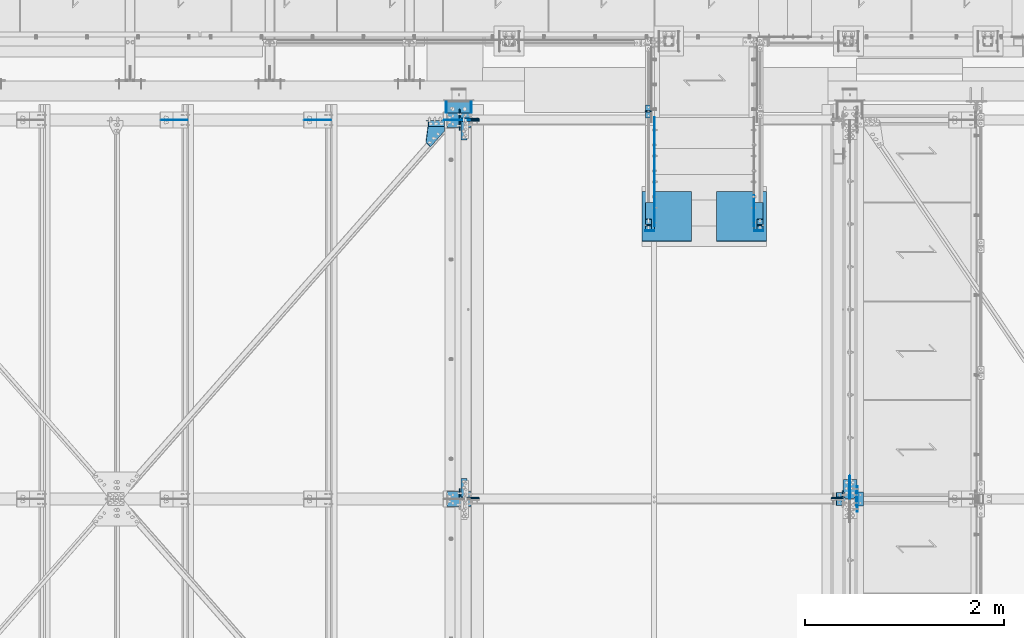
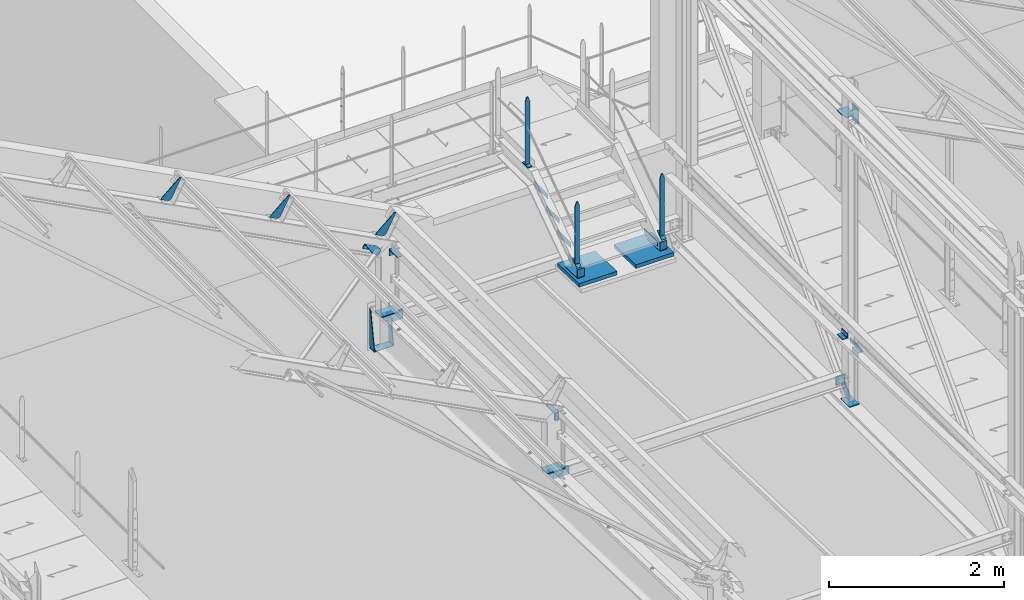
# One storey, part 91 of 362: 33 beams, 7 members, 29 elements without a shape of their own.
"""IFC2X3 building model written with IfcOpenShell, lengths in millimetres."""

from ifc_helpers import new_model, si_unit, frame, frame_2d, origin_with_axes, origin_2d_with_axis, place, context, subcontext, project, spatial, polyline, circle_curve, parameter, trimmed, segment, composite_curve, rectangle, l_section, outline, extrude, clip, halfspace, material, type_object, element, aggregate, save


model = new_model("IFC2X3")

# Units and contexts
model_context = context("Model", 3, precision=1e-05, world=origin_with_axes())
body_context = subcontext(model_context, "Body", "Model", "MODEL_VIEW")
ifc_project = project(units=[si_unit("LENGTHUNIT", "METRE", prefix="MILLI"), si_unit("AREAUNIT", "SQUARE_METRE"), si_unit("VOLUMEUNIT", "CUBIC_METRE"), si_unit("MASSUNIT", "GRAM", prefix="KILO"), si_unit("TIMEUNIT", "SECOND"), si_unit("PLANEANGLEUNIT", "RADIAN"), si_unit("SOLIDANGLEUNIT", "STERADIAN"), si_unit("THERMODYNAMICTEMPERATUREUNIT", "DEGREE_CELSIUS"), si_unit("LUMINOUSINTENSITYUNIT", "LUMEN")], contexts=[model_context])

# Site, building, storey
site_placement = place(None, origin_with_axes())
site = spatial("IfcSite", under=ifc_project, at=site_placement, Name="Undefined", CompositionType="ELEMENT")
building_placement = place(site_placement, origin_with_axes())
building = spatial("IfcBuilding", under=site, at=building_placement, Name="Undefined", CompositionType="ELEMENT")
storey_placement = place(building_placement, origin_with_axes())
storey = spatial("IfcBuildingStorey", under=building, at=storey_placement, Name="Undefined", CompositionType="ELEMENT", Elevation=0.0)

# Assembly, beams
assembly_1_placement = place(storey_placement, origin_with_axes())
assembly_1 = element("IfcElementAssembly", 1, at=assembly_1_placement, inside=storey, Name="MAIN COURANTE", AssemblyPlace="NOTDEFINED", PredefinedType="NOTDEFINED")
ifc_material_1 = material(Name="Undefined/S235-E24")
beam_type_1 = type_object("IfcBeamType", Name="PL10*60", PredefinedType="NOTDEFINED")
beam_1_placement = place(assembly_1_placement, frame((21449.9863365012, 15350.0038033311, 8915.0), z_axis=(-1.0, 0.0, 0.0), x_axis=(0.0, -1.0, 0.0)))
beam_1 = element("IfcBeam", 2, at=beam_1_placement, type_object=beam_type_1, material=ifc_material_1, Name="PLATINE", ObjectType="PL10*60", context=body_context, shape_type="SweptSolid", body=[
    extrude(rectangle(XDim=10.0, YDim=60.0, at=origin_2d_with_axis()), frame((130.0, 0.0, 0.0), z_axis=(-1.0, 0.0, 0.0), x_axis=(0.0, -1.0, 0.0)), (0.0, 0.0, 1.0), 130.0),
])
beam_2_placement = place(assembly_1_placement, frame((21449.9862112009, 15285.0038033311, 9857.59999847), z_axis=(-0.99999999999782, -2.08799999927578e-06, 0.0), x_axis=(0.0, 0.0, -1.0)))
beam_2 = element("IfcBeam", 3, at=beam_2_placement, type_object=beam_type_1, material=ifc_material_1, Name="MONTANT", ObjectType="PL10*60", context=body_context, shape_type="Clipping", body=[
    clip(clip(extrude(rectangle(XDim=10.0, YDim=60.0, at=origin_2d_with_axis()), frame((937.599998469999, 0.0, 0.0), z_axis=(-1.0, 0.0, 0.0), x_axis=(0.0, -1.0, 0.0)), (0.0, 0.0, 1.0), 937.6), halfspace(frame((-119.999937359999, -4.99999999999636, -30.0), z_axis=(-0.316227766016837, -1.98085072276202e-06, 0.948683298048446), x_axis=(-6.26399999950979e-06, 0.999999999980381, -3.63797880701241e-15)), False)), halfspace(frame((60.0, -5.0, -30.0), z_axis=(-0.316227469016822, 1.98084886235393e-06, -0.948683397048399), x_axis=(6.26399999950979e-06, 0.999999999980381, -3.63797880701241e-15)), False)),
])
beam_3_placement = place(assembly_1_placement, frame((21449.9862112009, 14144.9998536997, 9085.35366746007), z_axis=(-0.99999999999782, -2.08799999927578e-06, 0.0), x_axis=(0.0, 0.0, -1.0)))
beam_3 = element("IfcBeam", 4, at=beam_3_placement, type_object=beam_type_1, material=ifc_material_1, Name="MONTANT", ObjectType="PL10*60", context=body_context, shape_type="Clipping", body=[
    clip(clip(clip(clip(extrude(rectangle(XDim=10.0, YDim=60.0, at=origin_2d_with_axis()), frame((863.260305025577, 0.0, 0.0), z_axis=(-1.0, 0.0, 0.0), x_axis=(0.0, -1.0, 0.0)), (0.0, 0.0, 1.0), 870.25), halfspace(frame((-119.999937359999, -4.99999999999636, -30.0), z_axis=(-0.316227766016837, -1.98085072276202e-06, 0.948683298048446), x_axis=(-6.26399999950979e-06, 0.999999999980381, -3.63797880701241e-15)), False)), halfspace(frame((60.0, -5.0, -30.0), z_axis=(-0.316227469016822, 1.98084886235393e-06, -0.948683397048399), x_axis=(6.26399999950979e-06, 0.999999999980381, -3.63797880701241e-15)), False)), halfspace(frame((851.815615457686, -6.43113634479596, -0.000138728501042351), z_axis=(0.822192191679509, -0.569209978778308, -6.66011673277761e-07), x_axis=(0.569209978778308, 0.822192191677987, 1.71673729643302e-06)), False)), halfspace(frame((-7.87605918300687, -11.3765299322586, -0.000149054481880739), z_axis=(0.822192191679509, -0.569209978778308, -6.66011673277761e-07), x_axis=(0.569209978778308, 0.822192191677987, 1.71673729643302e-06)), True)),
])

# Assembly, beam
assembly_2_placement = place(storey_placement, origin_with_axes())
assembly_2 = element("IfcElementAssembly", 5, at=assembly_2_placement, inside=storey, Name="MAIN COURANTE", AssemblyPlace="NOTDEFINED", PredefinedType="NOTDEFINED")
beam_4_placement = place(assembly_2_placement, frame((22569.9937887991, 14144.9998536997, 9085.35366746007), z_axis=(0.999999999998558, -1.69800000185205e-06, 0.0), x_axis=(0.0, 0.0, -1.0)))
beam_4 = element("IfcBeam", 6, at=beam_4_placement, type_object=beam_type_1, material=ifc_material_1, Name="MONTANT", ObjectType="PL10*60", context=body_context, shape_type="Clipping", body=[
    clip(clip(clip(clip(extrude(rectangle(XDim=10.0, YDim=60.0, at=origin_2d_with_axis()), frame((863.260305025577, 0.0, 0.0), z_axis=(-1.0, 0.0, 0.0), x_axis=(0.0, -1.0, 0.0)), (0.0, 0.0, 1.0), 870.25), halfspace(frame((-119.999937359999, 4.99999999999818, -30.0), z_axis=(-0.316227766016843, 1.98085072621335e-06, 0.948683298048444), x_axis=(0.948683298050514, 0.0, 0.316227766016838)), False)), halfspace(frame((60.0, 5.0, -30.0), z_axis=(-0.316227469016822, -1.98084886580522e-06, -0.948683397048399), x_axis=(-0.948683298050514, 0.0, 0.316227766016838)), False)), halfspace(frame((851.815615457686, 6.43113634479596, -0.000138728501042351), z_axis=(0.822192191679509, 0.569209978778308, -6.6601167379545e-07), x_axis=(0.0, -2.08799999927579e-06, -0.99999999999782)), False)), halfspace(frame((-7.87605918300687, 11.3765299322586, -0.000149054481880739), z_axis=(0.822192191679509, 0.569209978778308, -6.6601167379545e-07), x_axis=(0.0, -2.08799999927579e-06, -0.99999999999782)), True)),
])

assembly_3_placement = place(storey_placement, origin_with_axes())
assembly_3 = element("IfcElementAssembly", 7, at=assembly_3_placement, inside=storey, Name="MONTANT", AssemblyPlace="NOTDEFINED", PredefinedType="NOTDEFINED")
beam_type_2 = type_object("IfcBeamType", Name="TOLE8*138", PredefinedType="NOTDEFINED")
beam_5_placement = place(assembly_3_placement, frame((23470.0, 11500.0, 7260.0), z_axis=(-1.0, 0.0, 0.0), x_axis=(0.0, -1.0, 0.0)))
beam_5 = element("IfcBeam", 8, at=beam_5_placement, type_object=beam_type_2, material=ifc_material_1, Name="GOUSSET", ObjectType="TOLE8*138", context=body_context, shape_type="SweptSolid", body=[
    extrude(outline(polyline([(0.0, 0.0), (77.25, 0.0), (97.25, 20.0), (97.25, 100.0), (-78.0536499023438, 234.738433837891), (-135.957046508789, 179.537002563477), (0.0, 0.0)])), frame((0.0, 0.0, -4.0), z_axis=(0.0, 0.0, 1.0), x_axis=(1.0, 0.0, 0.0)), (0.0, 0.0, 1.0), 8.0),
])

# Member
member_type_1 = type_object("IfcMemberType", Name="PL10*60", PredefinedType="NOTDEFINED")
member_1_placement = place(assembly_1_placement, frame((21449.9863365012, 14205.3993570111, 8264.81946439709), z_axis=(-1.0, 0.0, 0.0), x_axis=(0.0, -0.822192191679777, -0.569209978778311)))
member_1 = element("IfcMember", 9, at=member_1_placement, type_object=member_type_1, material=ifc_material_1, Name="PLATINE", ObjectType="PL10*60", context=body_context, shape_type="SweptSolid", body=[
    extrude(rectangle(XDim=10.0, YDim=60.0, at=origin_2d_with_axis()), frame((130.0, 0.0, 0.0), z_axis=(-1.0, 0.0, 0.0), x_axis=(0.0, -1.0, 0.0)), (0.0, 0.0, 1.0), 130.0),
])

aggregate(assembly_1, [member_1, beam_1, beam_2, beam_3])

member_2_placement = place(assembly_2_placement, frame((22569.9936634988, 14205.3993570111, 8264.81946439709), z_axis=(1.0, 0.0, 0.0), x_axis=(0.0, -0.822192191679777, -0.569209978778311)))
member_2 = element("IfcMember", 10, at=member_2_placement, type_object=member_type_1, material=ifc_material_1, Name="PLATINE", ObjectType="PL10*60", context=body_context, shape_type="SweptSolid", body=[
    extrude(rectangle(XDim=10.0, YDim=60.0, at=origin_2d_with_axis()), frame((130.0, 0.0, 0.0), z_axis=(-1.0, 0.0, 0.0), x_axis=(0.0, -1.0, 0.0)), (0.0, 0.0, 1.0), 130.0),
])

aggregate(assembly_2, [member_2, beam_4])

# Assembly, beam
assembly_4_placement = place(storey_placement, origin_with_axes())
assembly_4 = element("IfcElementAssembly", 11, at=assembly_4_placement, inside=storey, Name="MARCHE", AssemblyPlace="NOTDEFINED", PredefinedType="NOTDEFINED")
beam_type_3 = type_object("IfcBeamType", Name="PL3*70", PredefinedType="NOTDEFINED")
beam_6_placement = place(assembly_4_placement, frame((21511.4947340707, 15224.9997910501, 8700.0), z_axis=(-1.0, 0.0, 0.0), x_axis=(0.0, 0.0, -1.0)))
beam_6 = element("IfcBeam", 12, at=beam_6_placement, type_object=beam_type_3, material=ifc_material_1, Name="PLAT MARCHE", ObjectType="PL3*70", context=body_context, shape_type="SweptSolid", body=[
    extrude(outline(polyline([(0.0, 0.0), (50.0, 0.0), (70.0, 30.0), (70.0, 310.0), (0.0, 310.0), (0.0, 0.0)])), frame((0.0, 0.0, -1.5), z_axis=(0.0, 0.0, 1.0), x_axis=(1.0, 0.0, 0.0)), (0.0, 0.0, 1.0), 3.0),
])
aggregate(assembly_4, [beam_6])

assembly_5_placement = place(storey_placement, origin_with_axes())
assembly_5 = element("IfcElementAssembly", 13, at=assembly_5_placement, inside=storey, Name="MARCHE", AssemblyPlace="NOTDEFINED", PredefinedType="NOTDEFINED")
beam_7_placement = place(assembly_5_placement, frame((21511.4947340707, 14964.9997910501, 8520.00000004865), z_axis=(-1.0, 0.0, 0.0), x_axis=(0.0, 0.0, -1.0)))
beam_7 = element("IfcBeam", 14, at=beam_7_placement, type_object=beam_type_3, material=ifc_material_1, Name="PLAT MARCHE", ObjectType="PL3*70", context=body_context, shape_type="SweptSolid", body=[
    extrude(outline(polyline([(0.0, 0.0), (50.0, 0.0), (70.0, 30.0), (70.0, 310.0), (0.0, 310.0), (0.0, 0.0)])), frame((0.0, 0.0, -1.5), z_axis=(0.0, 0.0, 1.0), x_axis=(1.0, 0.0, 0.0)), (0.0, 0.0, 1.0), 3.0),
])
aggregate(assembly_5, [beam_7])

assembly_6_placement = place(storey_placement, origin_with_axes())
assembly_6 = element("IfcElementAssembly", 15, at=assembly_6_placement, inside=storey, Name="MARCHE", AssemblyPlace="NOTDEFINED", PredefinedType="NOTDEFINED")
beam_8_placement = place(assembly_6_placement, frame((21511.4947340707, 14704.9997910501, 8340.00000007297), z_axis=(-1.0, 0.0, 0.0), x_axis=(0.0, 0.0, -1.0)))
beam_8 = element("IfcBeam", 16, at=beam_8_placement, type_object=beam_type_3, material=ifc_material_1, Name="PLAT MARCHE", ObjectType="PL3*70", context=body_context, shape_type="SweptSolid", body=[
    extrude(outline(polyline([(0.0, 0.0), (50.0, 0.0), (70.0, 30.0), (70.0, 310.0), (0.0, 310.0), (0.0, 0.0)])), frame((0.0, 0.0, -1.5), z_axis=(0.0, 0.0, 1.0), x_axis=(1.0, 0.0, 0.0)), (0.0, 0.0, 1.0), 3.0),
])
aggregate(assembly_6, [beam_8])

# Assembly, beams
assembly_7_placement = place(storey_placement, origin_with_axes())
assembly_7 = element("IfcElementAssembly", 17, at=assembly_7_placement, inside=storey, Name="MARCHE", AssemblyPlace="NOTDEFINED", PredefinedType="NOTDEFINED")
beam_9_placement = place(assembly_7_placement, frame((21511.4947340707, 14444.9997910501, 8160.0000000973), z_axis=(-1.0, 0.0, 0.0), x_axis=(0.0, 0.0, -1.0)))
beam_9 = element("IfcBeam", 18, at=beam_9_placement, type_object=beam_type_3, material=ifc_material_1, Name="PLAT MARCHE", ObjectType="PL3*70", context=body_context, shape_type="SweptSolid", body=[
    extrude(outline(polyline([(0.0, 0.0), (50.0, 0.0), (70.0, 30.0), (70.0, 310.0), (0.0, 310.0), (0.0, 0.0)])), frame((0.0, 0.0, -1.5), z_axis=(0.0, 0.0, 1.0), x_axis=(1.0, 0.0, 0.0)), (0.0, 0.0, 1.0), 3.0),
])
beam_10_placement = place(assembly_7_placement, frame((22508.4947340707, 14444.9997910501, 8160.0000000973), z_axis=(-1.0, 0.0, 0.0), x_axis=(0.0, 0.0, -1.0)))
beam_10 = element("IfcBeam", 19, at=beam_10_placement, type_object=beam_type_3, material=ifc_material_1, Name="PLAT MARCHE", ObjectType="PL3*70", context=body_context, shape_type="SweptSolid", body=[
    extrude(outline(polyline([(0.0, 0.0), (50.0, 0.0), (70.0, 30.0), (70.0, 310.0), (0.0, 310.0), (0.0, 0.0)])), frame((0.0, 0.0, -1.5), z_axis=(0.0, 0.0, 1.0), x_axis=(1.0, 0.0, 0.0)), (0.0, 0.0, 1.0), 3.0),
])
aggregate(assembly_7, [beam_9, beam_10])

assembly_8_placement = place(storey_placement, origin_with_axes())
assembly_8 = element("IfcElementAssembly", 20, at=assembly_8_placement, inside=storey, AssemblyPlace="NOTDEFINED", PredefinedType="NOTDEFINED")
beam_type_4 = type_object("IfcBeamType", Name="PL8*90", PredefinedType="NOTDEFINED")
beam_11_placement = place(assembly_8_placement, frame((22554.9938754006, 14370.1040990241, 8052.62545207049), z_axis=(1.0, 0.0, 0.0), x_axis=(0.0, -0.999506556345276, 0.031410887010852)))
beam_11 = element("IfcBeam", 21, at=beam_11_placement, type_object=beam_type_4, material=ifc_material_1, Name="PLAT LIMON", ObjectType="PL8*90", context=body_context, shape_type="SweptSolid", body=[
    extrude(rectangle(XDim=8.0, YDim=90.0, at=origin_2d_with_axis()), frame((285.370765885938, 0.0, 0.0), z_axis=(-1.0, 0.0, 0.0), x_axis=(0.0, -1.0, 0.0)), (0.0, 0.0, 1.0), 285.37),
])
beam_12_placement = place(assembly_8_placement, frame((22554.9938754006, 14088.9997910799, 8180.92307703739), z_axis=(1.0, 0.0, 0.0), x_axis=(0.0, 0.0, -1.0)))
beam_12 = element("IfcBeam", 22, at=beam_12_placement, type_object=beam_type_4, material=ifc_material_1, Name="PLAT LIMON", ObjectType="PL8*90", context=body_context, shape_type="SweptSolid", body=[
    extrude(rectangle(XDim=8.0, YDim=90.0, at=origin_2d_with_axis()), frame((114.997260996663, 0.0, 0.0), z_axis=(-1.0, 0.0, 0.0), x_axis=(0.0, -1.0, 0.0)), (0.0, 0.0, 1.0), 115.0),
])
aggregate(assembly_8, [beam_11, beam_12])

assembly_9_placement = place(storey_placement, origin_with_axes())
assembly_9 = element("IfcElementAssembly", 23, at=assembly_9_placement, inside=storey, AssemblyPlace="NOTDEFINED", PredefinedType="NOTDEFINED")
beam_13_placement = place(assembly_9_placement, frame((21465.0061245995, 14370.1040990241, 8052.62545207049), z_axis=(-1.0, 0.0, 0.0), x_axis=(0.0, -0.999506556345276, 0.031410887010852)))
beam_13 = element("IfcBeam", 24, at=beam_13_placement, type_object=beam_type_4, material=ifc_material_1, Name="PLAT LIMON", ObjectType="PL8*90", context=body_context, shape_type="SweptSolid", body=[
    extrude(rectangle(XDim=8.0, YDim=90.0, at=origin_2d_with_axis()), frame((285.370765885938, 0.0, 0.0), z_axis=(-1.0, 0.0, 0.0), x_axis=(0.0, -1.0, 0.0)), (0.0, 0.0, 1.0), 285.37),
])
beam_14_placement = place(assembly_9_placement, frame((21465.0061245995, 14088.9997910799, 8180.92307703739), z_axis=(-1.0, 0.0, 0.0), x_axis=(0.0, 0.0, -1.0)))
beam_14 = element("IfcBeam", 25, at=beam_14_placement, type_object=beam_type_4, material=ifc_material_1, Name="PLAT LIMON", ObjectType="PL8*90", context=body_context, shape_type="SweptSolid", body=[
    extrude(rectangle(XDim=8.0, YDim=90.0, at=origin_2d_with_axis()), frame((114.997260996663, 0.0, 0.0), z_axis=(-1.0, 0.0, 0.0), x_axis=(0.0, -1.0, 0.0)), (0.0, 0.0, 1.0), 115.0),
])
aggregate(assembly_9, [beam_13, beam_14])

# Assembly, beam
assembly_10_placement = place(storey_placement, origin_with_axes())
assembly_10 = element("IfcElementAssembly", 26, at=assembly_10_placement, inside=storey, Name="DALLE SUR PLOT", AssemblyPlace="NOTDEFINED", PredefinedType="REINFORCEMENT_UNIT")
ifc_material_2 = material(Name="CONCRETE/BETON")
beam_type_5 = type_object("IfcBeamType", Name="PL50*500", PredefinedType="NOTDEFINED")
beam_15_placement = place(assembly_10_placement, frame((21634.9947340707, 14483.7658543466, 8020.03915601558), z_axis=(-1.0, 0.0, 0.0), x_axis=(0.0, -0.999506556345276, 0.031410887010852)))
beam_15 = element("IfcBeam", 27, at=beam_15_placement, type_object=beam_type_5, material=ifc_material_2, Name="DALLE SUR PLOT", ObjectType="PL50*500", context=body_context, shape_type="SweptSolid", body=[
    extrude(rectangle(XDim=50.0, YDim=500.0, at=origin_2d_with_axis()), frame((500.000000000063, 0.0, 0.0), z_axis=(-1.0, 0.0, 0.0), x_axis=(0.0, -1.0, 0.0)), (0.0, 0.0, 1.0), 500.0),
])
aggregate(assembly_10, [beam_15])

assembly_11_placement = place(storey_placement, origin_with_axes())
assembly_11 = element("IfcElementAssembly", 28, at=assembly_11_placement, inside=storey, Name="DALLE SUR PLOT", AssemblyPlace="NOTDEFINED", PredefinedType="REINFORCEMENT_UNIT")
beam_16_placement = place(assembly_11_placement, frame((22384.9947340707, 14483.7658543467, 8020.03915601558), z_axis=(-1.0, 0.0, 0.0), x_axis=(0.0, -0.999506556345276, 0.031410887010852)))
beam_16 = element("IfcBeam", 29, at=beam_16_placement, type_object=beam_type_5, material=ifc_material_2, Name="DALLE SUR PLOT", ObjectType="PL50*500", context=body_context, shape_type="SweptSolid", body=[
    extrude(rectangle(XDim=50.0, YDim=500.0, at=origin_2d_with_axis()), frame((500.000000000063, 0.0, 0.0), z_axis=(-1.0, 0.0, 0.0), x_axis=(0.0, -1.0, 0.0)), (0.0, 0.0, 1.0), 500.0),
])
aggregate(assembly_11, [beam_16])

assembly_12_placement = place(storey_placement, origin_with_axes())
assembly_12 = element("IfcElementAssembly", 30, at=assembly_12_placement, inside=storey, AssemblyPlace="NOTDEFINED", PredefinedType="NOTDEFINED")
beam_type_6 = type_object("IfcBeamType", Name="L70*7", PredefinedType="NOTDEFINED")
beam_17_placement = place(assembly_12_placement, frame((23571.49994422, 11330.0, 7915.0), z_axis=(1.0, 0.0, 0.0), x_axis=(0.0, 1.0, 0.0)))
beam_17 = element("IfcBeam", 31, at=beam_17_placement, type_object=beam_type_6, material=ifc_material_1, Name="ATTACHE", ObjectType="L70*7", context=body_context, shape_type="SweptSolid", body=[
    extrude(l_section(Depth=70.0, Width=70.0, Thickness=7.0, FilletRadius=9.0, EdgeRadius=4.5, at=origin_2d_with_axis()), frame((140.0, 0.0, 0.0), z_axis=(-1.0, 0.0, 0.0), x_axis=(0.0, -1.0, 0.0)), (0.0, 0.0, 1.0), 140.0),
])
aggregate(assembly_12, [beam_17])

assembly_13_placement = place(storey_placement, origin_with_axes())
assembly_13 = element("IfcElementAssembly", 32, at=assembly_13_placement, inside=storey, AssemblyPlace="NOTDEFINED", PredefinedType="NOTDEFINED")
beam_18_placement = place(assembly_13_placement, frame((23368.5001163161, 11464.8129140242, 8229.98135168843), z_axis=(0.0, 0.0314135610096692, 0.999506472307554), x_axis=(0.0, -0.999506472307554, 0.031413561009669)))
beam_18 = element("IfcBeam", 33, at=beam_18_placement, type_object=beam_type_6, material=ifc_material_1, Name="ATTACHE", ObjectType="L70*7", context=body_context, shape_type="SweptSolid", body=[
    extrude(l_section(Depth=70.0, Width=70.0, Thickness=7.0, FilletRadius=9.0, EdgeRadius=4.5, at=origin_2d_with_axis()), frame((130.004127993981, 0.0, 9.02084851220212e-16), z_axis=(-1.0, 0.0, 0.0), x_axis=(0.0, -1.0, 0.0)), (0.0, 0.0, 1.0), 130.0),
])
aggregate(assembly_13, [beam_18])

assembly_14_placement = place(storey_placement, origin_with_axes())
assembly_14 = element("IfcElementAssembly", 34, at=assembly_14_placement, inside=storey, AssemblyPlace="NOTDEFINED", PredefinedType="NOTDEFINED")
beam_type_7 = type_object("IfcBeamType", Name="TOLE6*196", PredefinedType="NOTDEFINED")
beam_19_placement = place(assembly_14_placement, frame((19406.8363854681, 15089.9776468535, 8548.85321210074), z_axis=(0.463528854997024, 6.99999093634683e-09, 0.886081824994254), x_axis=(0.0, 1.0, 0.0)))
beam_19 = element("IfcBeam", 35, at=beam_19_placement, type_object=beam_type_7, material=ifc_material_1, Name="GOUSSET", ObjectType="TOLE6*196", context=body_context, shape_type="SweptSolid", body=[
    extrude(outline(polyline([(0.0, 0.0), (96.5226516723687, -1.65528035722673e-10), (96.5226516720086, 180.000106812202), (-112.688667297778, 210.686050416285), (-162.033142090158, 161.036056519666), (0.0, 0.0)])), frame((0.0, 0.0, -3.0), z_axis=(0.0, 0.0, 1.0), x_axis=(1.0, 0.0, 0.0)), (0.0, 0.0, 1.0), 6.0),
])
aggregate(assembly_14, [beam_19])

# Assembly, member
assembly_15_placement = place(storey_placement, origin_with_axes())
assembly_15 = element("IfcElementAssembly", 36, at=assembly_15_placement, inside=storey, AssemblyPlace="NOTDEFINED", PredefinedType="NOTDEFINED")
member_type_2 = type_object("IfcMemberType", Name="L60*6", PredefinedType="NOTDEFINED")
member_3_placement = place(assembly_15_placement, frame((19232.0450946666, 15166.5002956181, 8603.04770381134), z_axis=(0.0, -1.0, 0.0), x_axis=(0.886081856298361, 3.500000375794e-08, -0.463528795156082)))
member_3 = element("IfcMember", 37, at=member_3_placement, type_object=member_type_2, material=ifc_material_1, Name="ATTACHE", ObjectType="L60*6", context=body_context, shape_type="SweptSolid", body=[
    extrude(l_section(Depth=60.0, Width=60.0, Thickness=6.0, FilletRadius=8.0, EdgeRadius=4.0, at=origin_2d_with_axis()), frame((180.0, 0.0, 0.0), z_axis=(-1.0, 0.0, 0.0), x_axis=(0.0, -1.0, 0.0)), (0.0, 0.0, 1.0), 180.0),
])
aggregate(assembly_15, [member_3])

# Assembly, beam
assembly_16_placement = place(storey_placement, origin_with_axes())
assembly_16 = element("IfcElementAssembly", 38, at=assembly_16_placement, inside=storey, Name="PANNE SHED", AssemblyPlace="NOTDEFINED", PredefinedType="NOTDEFINED")
beam_type_8 = type_object("IfcBeamType", Name="TOLE8*140", PredefinedType="NOTDEFINED")
beam_20_placement = place(assembly_16_placement, frame((19667.0878027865, 15200.0, 8923.94974997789), z_axis=(0.0, -1.0, 0.0), x_axis=(-0.886081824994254, 0.0, 0.463528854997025)))
beam_20 = element("IfcBeam", 39, at=beam_20_placement, type_object=beam_type_8, material=ifc_material_1, Name="RAIDISSEUR", ObjectType="TOLE8*140", context=body_context, shape_type="SweptSolid", body=[
    extrude(outline(polyline([(0.0, 0.0), (19.9999999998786, -3.63797880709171e-12), (140.000030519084, 299.999999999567), (140.000030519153, 319.999999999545), (30.0000147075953, 319.999999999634), (0.0, 290.0), (0.0, 0.0)])), frame((0.0, 0.0, -4.0), z_axis=(0.0, 0.0, 1.0), x_axis=(1.0, 0.0, 0.0)), (0.0, 0.0, 1.0), 8.0),
])
aggregate(assembly_16, [beam_20])

assembly_17_placement = place(storey_placement, origin_with_axes())
assembly_17 = element("IfcElementAssembly", 40, at=assembly_17_placement, inside=storey, Name="PANNE SHED", AssemblyPlace="NOTDEFINED", PredefinedType="NOTDEFINED")
beam_21_placement = place(assembly_17_placement, frame((18269.6614730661, 15200.0, 9654.97325100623), z_axis=(0.0, -1.0, 0.0), x_axis=(-0.886081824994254, 0.0, 0.463528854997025)))
beam_21 = element("IfcBeam", 41, at=beam_21_placement, type_object=beam_type_8, material=ifc_material_1, Name="RAIDISSEUR", ObjectType="TOLE8*140", context=body_context, shape_type="SweptSolid", body=[
    extrude(outline(polyline([(0.0, 0.0), (19.9999999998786, -3.63797880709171e-12), (140.000030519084, 299.999999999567), (140.000030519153, 319.999999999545), (30.0000147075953, 319.999999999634), (0.0, 290.0), (0.0, 0.0)])), frame((0.0, 0.0, -4.0), z_axis=(0.0, 0.0, 1.0), x_axis=(1.0, 0.0, 0.0)), (0.0, 0.0, 1.0), 8.0),
])
aggregate(assembly_17, [beam_21])

assembly_18_placement = place(storey_placement, origin_with_axes())
assembly_18 = element("IfcElementAssembly", 42, at=assembly_18_placement, inside=storey, Name="PANNE SHED", AssemblyPlace="NOTDEFINED", PredefinedType="NOTDEFINED")
beam_22_placement = place(assembly_18_placement, frame((16832.361407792, 15200.0, 10406.855553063), z_axis=(0.0, -1.0, 0.0), x_axis=(-0.886081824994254, 0.0, 0.463528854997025)))
beam_22 = element("IfcBeam", 43, at=beam_22_placement, type_object=beam_type_8, material=ifc_material_1, Name="RAIDISSEUR", ObjectType="TOLE8*140", context=body_context, shape_type="SweptSolid", body=[
    extrude(outline(polyline([(0.0, 0.0), (19.9999999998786, -3.63797880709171e-12), (140.000030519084, 299.999999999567), (140.000030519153, 319.999999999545), (30.0000147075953, 319.999999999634), (0.0, 290.0), (0.0, 0.0)])), frame((0.0, 0.0, -4.0), z_axis=(0.0, 0.0, 1.0), x_axis=(1.0, 0.0, 0.0)), (0.0, 0.0, 1.0), 8.0),
])
aggregate(assembly_18, [beam_22])

# Assembly, member
assembly_19_placement = place(storey_placement, origin_with_axes())
assembly_19 = element("IfcElementAssembly", 44, at=assembly_19_placement, inside=storey, AssemblyPlace="NOTDEFINED", PredefinedType="NOTDEFINED")
member_type_3 = type_object("IfcMemberType", Name="L200*100*10", PredefinedType="NOTDEFINED")
member_4_placement = place(assembly_19_placement, frame((19656.0000000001, 15251.0955997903, 7420.64109957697), z_axis=(1.0, 0.0, 0.0), x_axis=(7.58071938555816e-11, 0.0314107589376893, 0.999506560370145)))
member_4 = element("IfcMember", 45, at=member_4_placement, type_object=member_type_3, material=ifc_material_1, Name="ATTACHE", ObjectType="L200*100*10", context=body_context, shape_type="SweptSolid", body=[
    extrude(l_section(Depth=200.0, Width=100.0, Thickness=10.0, FilletRadius=15.0, EdgeRadius=7.5, at=origin_2d_with_axis()), frame((120.0, 0.0, 0.0), z_axis=(-1.0, 0.0, 0.0), x_axis=(0.0, -1.0, 0.0)), (0.0, 0.0, 1.0), 120.0),
])
aggregate(assembly_19, [member_4])

assembly_20_placement = place(storey_placement, origin_with_axes())
assembly_20 = element("IfcElementAssembly", 46, at=assembly_20_placement, inside=storey, AssemblyPlace="NOTDEFINED", PredefinedType="NOTDEFINED")
member_5_placement = place(assembly_20_placement, frame((19656.0000000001, 15148.9163902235, 7543.91150128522), z_axis=(1.0, 0.0, 0.0), x_axis=(-1.05403257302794e-09, -0.0314112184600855, -0.999506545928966)))
member_5 = element("IfcMember", 47, at=member_5_placement, type_object=member_type_3, material=ifc_material_1, Name="ATTACHE", ObjectType="L200*100*10", context=body_context, shape_type="SweptSolid", body=[
    extrude(l_section(Depth=200.0, Width=100.0, Thickness=10.0, FilletRadius=15.0, EdgeRadius=7.5, at=origin_2d_with_axis()), frame((120.0, 0.0, 0.0), z_axis=(-1.0, 0.0, 0.0), x_axis=(0.0, -1.0, 0.0)), (0.0, 0.0, 1.0), 120.0),
])
aggregate(assembly_20, [member_5])

assembly_21_placement = place(storey_placement, origin_with_axes())
assembly_21 = element("IfcElementAssembly", 48, at=assembly_21_placement, inside=storey, AssemblyPlace="NOTDEFINED", PredefinedType="NOTDEFINED")
member_6_placement = place(assembly_21_placement, frame((19656.0000000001, 11451.0955991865, 7540.06091030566), z_axis=(1.0, 0.0, 0.0), x_axis=(7.58071938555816e-11, 0.0314107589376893, 0.999506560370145)))
member_6 = element("IfcMember", 49, at=member_6_placement, type_object=member_type_3, material=ifc_material_1, Name="ATTACHE", ObjectType="L200*100*10", context=body_context, shape_type="SweptSolid", body=[
    extrude(l_section(Depth=200.0, Width=100.0, Thickness=10.0, FilletRadius=15.0, EdgeRadius=7.5, at=origin_2d_with_axis()), frame((120.0, 0.0, 0.0), z_axis=(-1.0, 0.0, 0.0), x_axis=(0.0, -1.0, 0.0)), (0.0, 0.0, 1.0), 120.0),
])
aggregate(assembly_21, [member_6])

# Beam
beam_type_9 = type_object("IfcBeamType", Name="PL10*133", PredefinedType="NOTDEFINED")
beam_23_placement = place(assembly_3_placement, frame((23470.0, 11500.0, 7255.0), z_axis=(1.0, 0.0, 0.0), x_axis=(0.0, -1.0, 0.0)))
beam_23 = element("IfcBeam", 50, at=beam_23_placement, type_object=beam_type_9, material=ifc_material_1, Name="PLATINE", ObjectType="PL10*133", context=body_context, shape_type="SweptSolid", body=[
    extrude(rectangle(XDim=10.0, YDim=133.0, at=origin_2d_with_axis()), frame((200.0, 0.0, 0.0), z_axis=(-1.0, 0.0, 0.0), x_axis=(0.0, -1.0, 0.0)), (0.0, 0.0, 1.0), 200.0),
])

# Assembly, beam
assembly_22_placement = place(storey_placement, origin_with_axes())
assembly_22 = element("IfcElementAssembly", 51, at=assembly_22_placement, inside=storey, AssemblyPlace="NOTDEFINED", PredefinedType="NOTDEFINED")
beam_type_10 = type_object("IfcBeamType", Name="L200*100*10", PredefinedType="NOTDEFINED")
beam_24_placement = place(assembly_22_placement, frame((19569.9999999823, 15096.5, 8400.0), z_axis=(0.0, -1.0, 0.0), x_axis=(1.0, 0.0, 0.0)))
beam_24 = element("IfcBeam", 52, at=beam_24_placement, type_object=beam_type_10, material=ifc_material_1, Name="ATTACHE", ObjectType="L200*100*10", context=body_context, shape_type="SweptSolid", body=[
    extrude(l_section(Depth=200.0, Width=100.0, Thickness=10.0, FilletRadius=15.0, EdgeRadius=7.5, at=origin_2d_with_axis()), frame((60.0, 0.0, 0.0), z_axis=(-1.0, 0.0, 0.0), x_axis=(0.0, -1.0, 0.0)), (0.0, 0.0, 1.0), 60.0),
])
aggregate(assembly_22, [beam_24])

assembly_23_placement = place(storey_placement, origin_with_axes())
assembly_23 = element("IfcElementAssembly", 53, at=assembly_23_placement, inside=storey, AssemblyPlace="NOTDEFINED", PredefinedType="NOTDEFINED")
beam_25_placement = place(assembly_23_placement, frame((19629.9999999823, 11503.5, 8400.0), z_axis=(0.0, 1.0, 0.0), x_axis=(-1.0, 0.0, 0.0)))
beam_25 = element("IfcBeam", 54, at=beam_25_placement, type_object=beam_type_10, material=ifc_material_1, Name="ATTACHE", ObjectType="L200*100*10", context=body_context, shape_type="SweptSolid", body=[
    extrude(l_section(Depth=200.0, Width=100.0, Thickness=10.0, FilletRadius=15.0, EdgeRadius=7.5, at=origin_2d_with_axis()), frame((60.0, 0.0, 0.0), z_axis=(-1.0, 0.0, 0.0), x_axis=(0.0, -1.0, 0.0)), (0.0, 0.0, 1.0), 60.0),
])
aggregate(assembly_23, [beam_25])

assembly_24_placement = place(storey_placement, origin_with_axes())
assembly_24 = element("IfcElementAssembly", 55, at=assembly_24_placement, inside=storey, AssemblyPlace="NOTDEFINED", PredefinedType="NOTDEFINED")
beam_type_11 = type_object("IfcBeamType", Name="TOLE6*60", PredefinedType="NOTDEFINED")
beam_26_placement = place(assembly_24_placement, frame((23544.9918295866, 11270.0, 7985.0), z_axis=(-1.0, 0.0, 0.0), x_axis=(0.0, 0.0, 1.0)))
beam_26 = element("IfcBeam", 56, at=beam_26_placement, type_object=beam_type_11, material=ifc_material_1, Name="PLATINE", ObjectType="TOLE6*60", context=body_context, shape_type="SweptSolid", body=[
    extrude(outline(polyline([(0.0, 0.0), (60.0, 0.0), (60.0, 260.0), (0.0, 260.0), (0.0, 0.0)])), frame((0.0, 0.0, -3.0), z_axis=(0.0, 0.0, 1.0), x_axis=(1.0, 0.0, 0.0)), (0.0, 0.0, 1.0), 6.0),
])
aggregate(assembly_24, [beam_26])

assembly_25_placement = place(storey_placement, origin_with_axes())
assembly_25 = element("IfcElementAssembly", 57, at=assembly_25_placement, inside=storey, Name="TRAVERSE SHED", AssemblyPlace="NOTDEFINED", PredefinedType="NOTDEFINED")
beam_type_12 = type_object("IfcBeamType", Name="PL10*140", PredefinedType="NOTDEFINED")
beam_27_placement = place(assembly_25_placement, frame((23541.5, 11400.0, 11360.8449760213), z_axis=(0.0, -1.0, 0.0), x_axis=(0.0, 0.0, -1.0)))
beam_27 = element("IfcBeam", 58, at=beam_27_placement, type_object=beam_type_12, material=ifc_material_1, Name="PLATINE", ObjectType="PL10*140", context=body_context, shape_type="SweptSolid", body=[
    extrude(rectangle(XDim=10.0, YDim=140.0, at=origin_2d_with_axis()), frame((215.684581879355, 0.0, 0.0), z_axis=(-1.0, 0.0, 0.0), x_axis=(0.0, -1.0, 0.0)), (0.0, 0.0, 1.0), 215.68),
])
aggregate(assembly_25, [beam_27])

assembly_26_placement = place(storey_placement, origin_with_axes())
assembly_26 = element("IfcElementAssembly", 59, at=assembly_26_placement, inside=storey, Name="TRAVERSE SHED", AssemblyPlace="NOTDEFINED", PredefinedType="NOTDEFINED")
beam_type_13 = type_object("IfcBeamType", Name="PL10*240", PredefinedType="NOTDEFINED")
beam_28_placement = place(assembly_26_placement, frame((19550.0, 11474.8056218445, 7694.39265439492), z_axis=(-1.0, 0.0, 0.0), x_axis=(0.0, -0.999506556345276, 0.031410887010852)))
beam_28 = element("IfcBeam", 60, at=beam_28_placement, type_object=beam_type_13, material=ifc_material_1, Name="PLATINE", ObjectType="PL10*240", context=body_context, shape_type="SweptSolid", body=[
    extrude(rectangle(XDim=10.0, YDim=240.0, at=origin_2d_with_axis()), frame((150.0, 0.0, 0.0), z_axis=(-1.0, 0.0, 0.0), x_axis=(0.0, -1.0, 0.0)), (0.0, 0.0, 1.0), 150.0),
])
aggregate(assembly_26, [beam_28])

assembly_27_placement = place(storey_placement, origin_with_axes())
assembly_27 = element("IfcElementAssembly", 61, at=assembly_27_placement, inside=storey, Name="TRAVERSE SHED", AssemblyPlace="NOTDEFINED", PredefinedType="NOTDEFINED")
beam_29_placement = place(assembly_27_placement, frame((19550.0, 15274.8056218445, 7574.97237948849), z_axis=(-1.0, 0.0, 0.0), x_axis=(0.0, -0.999506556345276, 0.031410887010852)))
beam_29 = element("IfcBeam", 62, at=beam_29_placement, type_object=beam_type_13, material=ifc_material_1, Name="PLATINE", ObjectType="PL10*240", context=body_context, shape_type="SweptSolid", body=[
    extrude(rectangle(XDim=10.0, YDim=240.0, at=origin_2d_with_axis()), frame((150.0, 0.0, 0.0), z_axis=(-1.0, 0.0, 0.0), x_axis=(0.0, -1.0, 0.0)), (0.0, 0.0, 1.0), 150.0),
])
aggregate(assembly_27, [beam_29])

# Assembly, member
assembly_28_placement = place(storey_placement, origin_with_axes())
assembly_28 = element("IfcElementAssembly", 63, at=assembly_28_placement, inside=storey, AssemblyPlace="NOTDEFINED", PredefinedType="NOTDEFINED")
member_type_4 = type_object("IfcMemberType", Name="L120*80*10", PredefinedType="NOTDEFINED")
member_7_placement = place(assembly_28_placement, frame((23343.5000000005, 11444.864356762, 7660.31577001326), z_axis=(-1.0, 0.0, 0.0), x_axis=(-1.05403257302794e-09, -0.0314112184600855, -0.999506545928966)))
member_7 = element("IfcMember", 64, at=member_7_placement, type_object=member_type_4, material=ifc_material_1, Name="ATTACHE", ObjectType="L120*80*10", context=body_context, shape_type="SweptSolid", body=[
    extrude(l_section(Depth=120.0, Width=80.0, Thickness=10.0, FilletRadius=11.0, EdgeRadius=5.5, at=origin_2d_with_axis()), frame((120.0, 0.0, 0.0), z_axis=(-1.0, 0.0, 0.0), x_axis=(0.0, -1.0, 0.0)), (0.0, 0.0, 1.0), 120.0),
])
aggregate(assembly_28, [member_7])

# Beam
beam_type_14 = type_object("IfcBeamType", Name="TOLE10*192", PredefinedType="NOTDEFINED")
beam_30_placement = place(assembly_3_placement, frame((23403.5, 11595.0, 11231.0), z_axis=(0.0, 0.0, 1.0), x_axis=(0.0, -1.0, 0.0)))
beam_30 = element("IfcBeam", 65, at=beam_30_placement, type_object=beam_type_14, material=ifc_material_1, Name="PLAT", ObjectType="TOLE10*192", context=body_context, shape_type="SweptSolid", body=[
    extrude(outline(composite_curve([segment(trimmed(circle_curve(frame_2d((10.0, 10.0), x_axis=(-1.0, 0.0)), 10.0), [parameter(0.0)], [parameter(1.5707963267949)], True, "PARAMETER"), True, "CONTINUOUS"), segment(polyline([(9.99999999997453, 6.91215973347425e-11), (124.5, 0.0), (124.5, 9.0), (172.25, 9.0), (192.25, 29.0), (192.25, 104.0), (172.25, 124.0), (124.0, 124.0), (124.0, 140.0), (10.0, 140.0)]), True, "CONTINUOUS"), segment(trimmed(circle_curve(frame_2d((10.0, 130.0), x_axis=(0.0, 1.0)), 10.0), [parameter(0.0)], [parameter(1.5707963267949)], True, "PARAMETER"), True, "CONTINUOUS"), segment(polyline([(0.0, 130.0), (-1.81898940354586e-10, 10.0000000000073)]), True, "CONTINUOUS")], self_intersect=True)), frame((0.0, 0.0, -5.0), z_axis=(0.0, 0.0, 1.0), x_axis=(1.0, 0.0, 0.0)), (0.0, 0.0, 1.0), 10.0),
])

aggregate(assembly_3, [beam_5, beam_23, beam_30])

# Assembly, beams
assembly_29_placement = place(storey_placement, origin_with_axes())
assembly_29 = element("IfcElementAssembly", 66, at=assembly_29_placement, inside=storey, AssemblyPlace="NOTDEFINED", PredefinedType="NOTDEFINED")
beam_type_15 = type_object("IfcBeamType", Name="PL10*110", PredefinedType="NOTDEFINED")
beam_31_placement = place(assembly_29_placement, frame((19425.0000000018, 15270.042093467, 7019.84807001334), z_axis=(-1.0, 0.0, 0.0), x_axis=(7.58071938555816e-11, 0.0314107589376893, 0.999506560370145)))
beam_31 = element("IfcBeam", 67, at=beam_31_placement, type_object=beam_type_15, material=ifc_material_1, Name="RAIDISSEUR", ObjectType="PL10*110", context=body_context, shape_type="SweptSolid", body=[
    extrude(outline(polyline([(0.0, 0.0), (19.9999999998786, -3.63797880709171e-12), (547.705993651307, 72.789970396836), (548.334167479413, 92.780097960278), (29.9851968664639, 109.069869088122), (3.83439057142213e-08, 80.0121917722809), (0.0, 0.0)])), frame((0.0, 0.0, -5.0), z_axis=(0.0, 0.0, 1.0), x_axis=(1.0, 0.0, 0.0)), (0.0, 0.0, 1.0), 10.0),
])
beam_32_placement = place(assembly_29_placement, frame((19674.9999999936, 15270.042093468, 7019.84807001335), z_axis=(-1.0, 0.0, 0.0), x_axis=(7.58071938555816e-11, 0.0314107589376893, 0.999506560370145)))
beam_32 = element("IfcBeam", 68, at=beam_32_placement, type_object=beam_type_15, material=ifc_material_1, Name="RAIDISSEUR", ObjectType="PL10*110", context=body_context, shape_type="SweptSolid", body=[
    extrude(outline(polyline([(0.0, 0.0), (19.9999999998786, -3.63797880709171e-12), (547.705993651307, 72.789970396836), (548.334167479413, 92.780097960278), (29.9851968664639, 109.069869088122), (3.83439057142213e-08, 80.0121917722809), (0.0, 0.0)])), frame((0.0, 0.0, -5.0), z_axis=(0.0, 0.0, 1.0), x_axis=(1.0, 0.0, 0.0)), (0.0, 0.0, 1.0), 10.0),
])
beam_type_16 = type_object("IfcBeamType", Name="PL10*260", PredefinedType="NOTDEFINED")
beam_33_placement = place(assembly_29_placement, frame((19549.9999999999, 15379.8429462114, 7011.39497068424), z_axis=(-1.0, 0.0, 0.0), x_axis=(0.0, -0.999506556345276, 0.031410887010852)))
beam_33 = element("IfcBeam", 69, at=beam_33_placement, type_object=beam_type_16, material=ifc_material_1, Name="SABOT", ObjectType="PL10*260", context=body_context, shape_type="SweptSolid", body=[
    extrude(rectangle(XDim=10.0, YDim=260.0, at=origin_2d_with_axis()), frame((110.012190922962, 0.0, 0.0), z_axis=(-1.0, 0.0, 0.0), x_axis=(0.0, -1.0, 0.0)), (0.0, 0.0, 1.0), 110.01),
])
aggregate(assembly_29, [beam_31, beam_32, beam_33])

save(model, "model.ifc")
